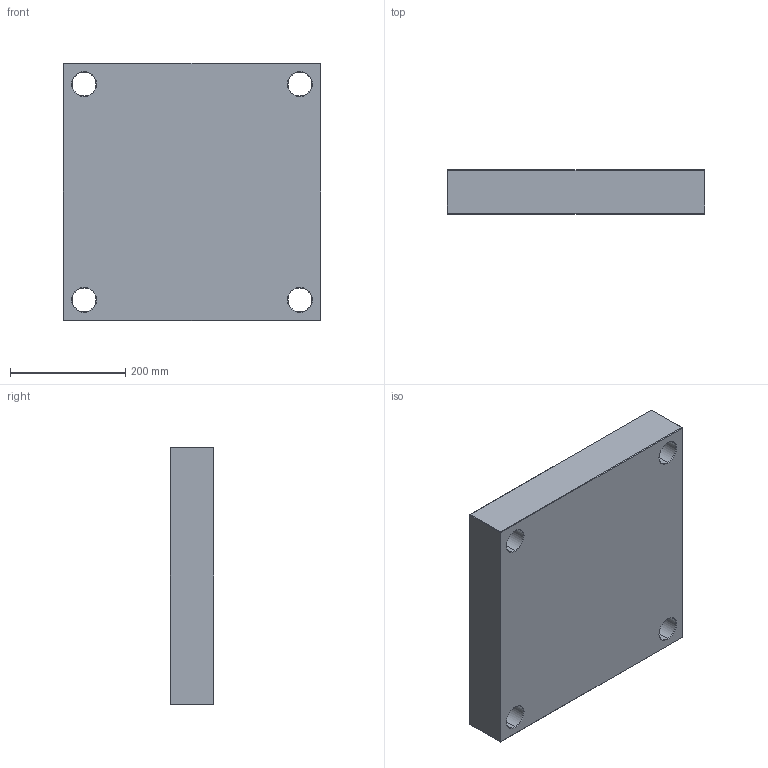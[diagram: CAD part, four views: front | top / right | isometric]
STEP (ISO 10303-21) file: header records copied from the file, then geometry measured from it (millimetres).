
FILE_DESCRIPTION (( 'STEP AP214' ), '1' );
FILE_NAME ('PCX-446x446x76.STEP', '2020-05-04T10:07:09', ( 'August' ), ( '' ), 'SwSTEP 2.0', 'SolidWorks 2018', '' );
FILE_SCHEMA (( 'AUTOMOTIVE_DESIGN' ));
Length unit declared in the file: millimetre
Products named in the file (1): PCX-446x446x76
Bounding box: 446 x 76 x 446 mm (x, y, z)
Volume: 14675810.9 mm3; surface area: 564668.4 mm2
Topology: 1 solids, 1 shells, 82 faces, 168 edges, 96 vertices
Faces by surface type: plane 34, cone 24, cylinder 24
Entity records: 2170 total; most frequent: DIRECTION 406, CARTESIAN_POINT 347, ORIENTED_EDGE 336, EDGE_CURVE 168, AXIS2_PLACEMENT_3D 155, EDGE_LOOP 98, VECTOR 96, VERTEX_POINT 96
